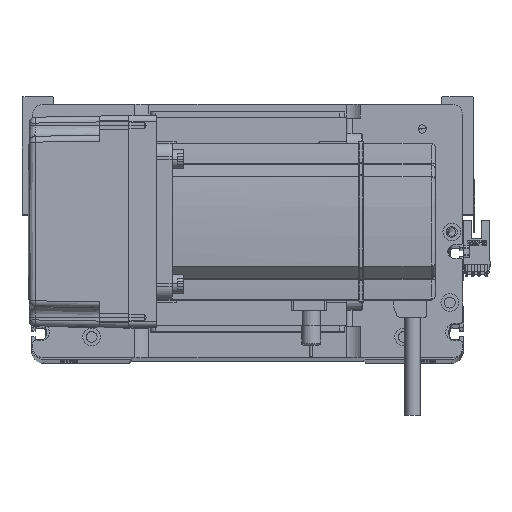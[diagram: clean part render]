
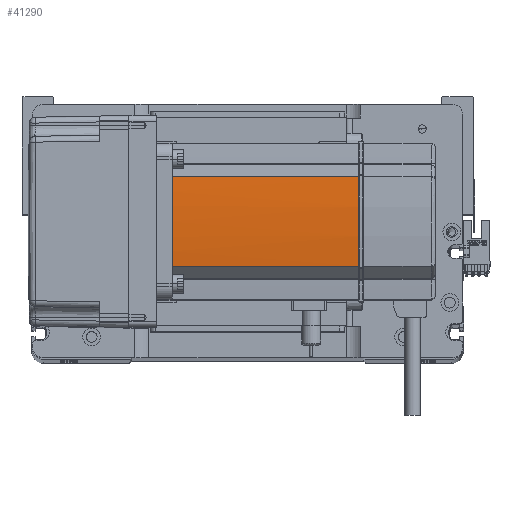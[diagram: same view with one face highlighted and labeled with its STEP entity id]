
A CAD part, top view. The second image highlights one B-rep face of the part: STEP entity #41290.
In plain terms, the highlighted cylindrical face has radius 270 mm (diameter 540 mm), a partial arc.
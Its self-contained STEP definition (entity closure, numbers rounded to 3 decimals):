
#191 = VECTOR ( 'NONE', #8592, 1000. ) ;
#2152 = DIRECTION ( 'NONE',  ( -1., 0., 0. ) ) ;
#3025 = EDGE_CURVE ( 'NONE', #32095, #20878, #36594, .T. ) ;
#3868 = ORIENTED_EDGE ( 'NONE', *, *, #3025, .T. ) ;
#4805 = VERTEX_POINT ( 'NONE', #43352 ) ;
#4882 = CARTESIAN_POINT ( 'NONE',  ( 40., 0.127, 134. ) ) ;
#5305 = DIRECTION ( 'NONE',  ( 0., 0., -1. ) ) ;
#5727 = AXIS2_PLACEMENT_3D ( 'NONE', #12818, #5305, #28977 ) ;
#8592 = DIRECTION ( 'NONE',  ( 0., 0., 1. ) ) ;
#8970 = EDGE_CURVE ( 'NONE', #19302, #18505, #47002, .T. ) ;
#9061 = CARTESIAN_POINT ( 'NONE',  ( 40., -0.127, 134. ) ) ;
#12212 = CARTESIAN_POINT ( 'NONE',  ( 40., 0.042, 134. ) ) ;
#12818 = CARTESIAN_POINT ( 'NONE',  ( -230., 0., 134. ) ) ;
#13172 = DIRECTION ( 'NONE',  ( -1., 0., 0. ) ) ;
#13467 = ORIENTED_EDGE ( 'NONE', *, *, #42558, .T. ) ;
#15151 = EDGE_CURVE ( 'NONE', #19302, #4805, #17281, .T. ) ;
#15269 = EDGE_CURVE ( 'NONE', #20878, #18505, #45642, .T. ) ;
#17281 = CIRCLE ( 'NONE', #5727, 270. ) ;
#18505 = VERTEX_POINT ( 'NONE', #29716 ) ;
#19302 = VERTEX_POINT ( 'NONE', #9061 ) ;
#19997 = FACE_OUTER_BOUND ( 'NONE', #23654, .T. ) ;
#20677 = CARTESIAN_POINT ( 'NONE',  ( 39.042, 22.724, 58. ) ) ;
#20878 = VERTEX_POINT ( 'NONE', #39203 ) ;
#21454 = DIRECTION ( 'NONE',  ( 0., 0., -1. ) ) ;
#23577 = CARTESIAN_POINT ( 'NONE',  ( -230., 0., 58. ) ) ;
#23654 = EDGE_LOOP ( 'NONE', ( #13467, #26641, #3868, #34483, #38639, #47505 ) ) ;
#24478 = CARTESIAN_POINT ( 'NONE',  ( 40., -0.127, 134. ) ) ;
#24782 = AXIS2_PLACEMENT_3D ( 'NONE', #23577, #52184, #48621 ) ;
#25027 = CARTESIAN_POINT ( 'NONE',  ( 39.042, -22.724, 58. ) ) ;
#25452 = DIRECTION ( 'NONE',  ( 0., 0., -1. ) ) ;
#25617 = DIRECTION ( 'NONE',  ( 0., 0., -1. ) ) ;
#26641 = ORIENTED_EDGE ( 'NONE', *, *, #35902, .F. ) ;
#27574 = CIRCLE ( 'NONE', #33199, 270. ) ;
#28977 = DIRECTION ( 'NONE',  ( -1., 0., 0. ) ) ;
#29068 = VERTEX_POINT ( 'NONE', #51340 ) ;
#29716 = CARTESIAN_POINT ( 'NONE',  ( 40., 0.127, 134. ) ) ;
#32095 = VERTEX_POINT ( 'NONE', #44612 ) ;
#33199 = AXIS2_PLACEMENT_3D ( 'NONE', #37278, #25452, #13172 ) ;
#34367 = AXIS2_PLACEMENT_3D ( 'NONE', #37440, #25617, #2152 ) ;
#34472 = VECTOR ( 'NONE', #21454, 1000. ) ;
#34483 = ORIENTED_EDGE ( 'NONE', *, *, #15269, .T. ) ;
#35902 = EDGE_CURVE ( 'NONE', #32095, #29068, #27574, .T. ) ;
#36594 = LINE ( 'NONE', #20677, #191 ) ;
#37278 = CARTESIAN_POINT ( 'NONE',  ( -230., 0., 39. ) ) ;
#37440 = CARTESIAN_POINT ( 'NONE',  ( -230., 0., 134. ) ) ;
#38639 = ORIENTED_EDGE ( 'NONE', *, *, #8970, .F. ) ;
#39203 = CARTESIAN_POINT ( 'NONE',  ( 39.042, 22.724, 134. ) ) ;
#41290 = ADVANCED_FACE ( 'NONE', ( #19997 ), #48361, .T. ) ;
#42558 = EDGE_CURVE ( 'NONE', #4805, #29068, #48315, .T. ) ;
#43352 = CARTESIAN_POINT ( 'NONE',  ( 39.042, -22.724, 134. ) ) ;
#44612 = CARTESIAN_POINT ( 'NONE',  ( 39.042, 22.724, 39. ) ) ;
#44983 = CARTESIAN_POINT ( 'NONE',  ( 40., -0.042, 134. ) ) ;
#45642 = CIRCLE ( 'NONE', #34367, 270. ) ;
#47002 = B_SPLINE_CURVE_WITH_KNOTS ( 'NONE', 3,
 ( #24478, #44983, #12212, #4882 ),
 .UNSPECIFIED., .F., .F.,
 ( 4, 4 ),
 ( 0., 1. ),
 .UNSPECIFIED. ) ;
#47505 = ORIENTED_EDGE ( 'NONE', *, *, #15151, .T. ) ;
#48315 = LINE ( 'NONE', #25027, #34472 ) ;
#48361 = CYLINDRICAL_SURFACE ( 'NONE', #24782, 270. ) ;
#48621 = DIRECTION ( 'NONE',  ( -1., 0., 0. ) ) ;
#51340 = CARTESIAN_POINT ( 'NONE',  ( 39.042, -22.724, 39. ) ) ;
#52184 = DIRECTION ( 'NONE',  ( 0., 0., -1. ) ) ;
